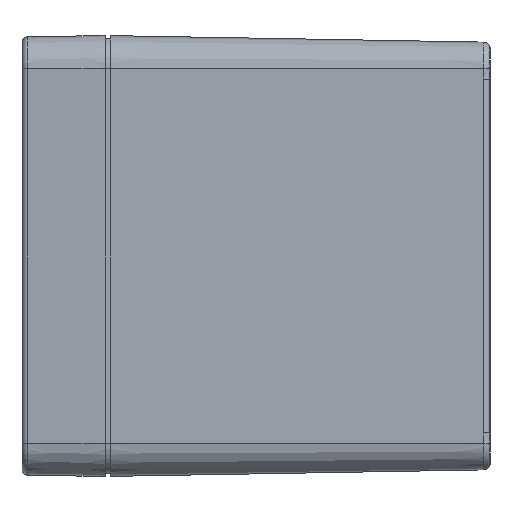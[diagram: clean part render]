
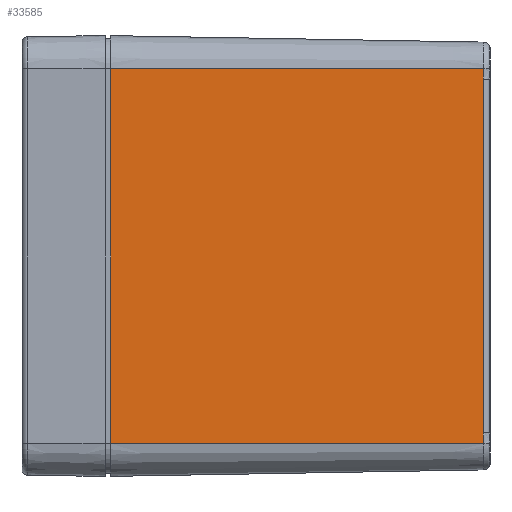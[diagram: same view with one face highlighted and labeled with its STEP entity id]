
A CAD part, left-side view. The second image highlights one B-rep face of the part: STEP entity #33585.
In plain terms, the highlighted planar face has unit normal (-1, -0.018, 0).
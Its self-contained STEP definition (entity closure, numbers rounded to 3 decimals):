
#3644 = ORIENTED_EDGE ( 'NONE', *, *, #25358, .T. ) ;
#3713 = DIRECTION ( 'NONE',  ( 0., 0., 1. ) ) ;
#4967 = CARTESIAN_POINT ( 'NONE',  ( -79.95, 0., 34. ) ) ;
#6379 = EDGE_CURVE ( 'NONE', #26351, #37103, #43136, .T. ) ;
#6888 = CARTESIAN_POINT ( 'NONE',  ( -79.933, -1., 34. ) ) ;
#7764 = AXIS2_PLACEMENT_3D ( 'NONE', #13228, #35449, #17099 ) ;
#9040 = VERTEX_POINT ( 'NONE', #21166 ) ;
#9193 = EDGE_CURVE ( 'NONE', #37103, #30146, #36875, .T. ) ;
#9538 = DIRECTION ( 'NONE',  ( -0.017, 1., 0. ) ) ;
#9598 = ORIENTED_EDGE ( 'NONE', *, *, #40598, .F. ) ;
#11423 = CARTESIAN_POINT ( 'NONE',  ( -79.95, 0., -34. ) ) ;
#11967 = EDGE_CURVE ( 'NONE', #30146, #9040, #42222, .T. ) ;
#12005 = ORIENTED_EDGE ( 'NONE', *, *, #6379, .T. ) ;
#12043 = CARTESIAN_POINT ( 'NONE',  ( -78.753, -68.572, -32.414 ) ) ;
#13228 = CARTESIAN_POINT ( 'NONE',  ( -79.95, 0., 34. ) ) ;
#13625 = DIRECTION ( 'NONE',  ( 0., 0., -1. ) ) ;
#14587 = DIRECTION ( 'NONE',  ( -0.017, 1., 0. ) ) ;
#14672 = VECTOR ( 'NONE', #14587, 1000. ) ;
#15685 = CARTESIAN_POINT ( 'NONE',  ( -78.752, -68.653, -33.364 ) ) ;
#16006 = CARTESIAN_POINT ( 'NONE',  ( -78.753, -68.6, 32.73 ) ) ;
#16709 = CARTESIAN_POINT ( 'NONE',  ( -78.751, -68.676, 33.682 ) ) ;
#16852 = FACE_OUTER_BOUND ( 'NONE', #29394, .T. ) ;
#16872 = EDGE_CURVE ( 'NONE', #26532, #36215, #32488, .T. ) ;
#17099 = DIRECTION ( 'NONE',  ( 0.017, -1., 0. ) ) ;
#19452 = CARTESIAN_POINT ( 'NONE',  ( -79.933, -1., -34. ) ) ;
#19549 = CARTESIAN_POINT ( 'NONE',  ( -78.753, -68.572, -32.095 ) ) ;
#19638 = CARTESIAN_POINT ( 'NONE',  ( -78.753, -68.572, 32.095 ) ) ;
#19796 = CARTESIAN_POINT ( 'NONE',  ( -78.753, -68.572, 32.095 ) ) ;
#21166 = CARTESIAN_POINT ( 'NONE',  ( -78.751, -68.676, 34. ) ) ;
#24300 = LINE ( 'NONE', #4967, #25383 ) ;
#25271 = CARTESIAN_POINT ( 'NONE',  ( -78.753, -68.572, 34. ) ) ;
#25358 = EDGE_CURVE ( 'NONE', #9040, #26532, #24300, .T. ) ;
#25383 = VECTOR ( 'NONE', #9538, 1000. ) ;
#25700 = ORIENTED_EDGE ( 'NONE', *, *, #9193, .T. ) ;
#26351 = VERTEX_POINT ( 'NONE', #42000 ) ;
#26532 = VERTEX_POINT ( 'NONE', #6888 ) ;
#27138 = CARTESIAN_POINT ( 'NONE',  ( -78.752, -68.653, 33.364 ) ) ;
#27376 = CARTESIAN_POINT ( 'NONE',  ( -78.753, -68.572, 32.414 ) ) ;
#27895 = VECTOR ( 'NONE', #13625, 1000. ) ;
#29394 = EDGE_LOOP ( 'NONE', ( #3644, #34707, #9598, #12005, #25700, #41205 ) ) ;
#30146 = VERTEX_POINT ( 'NONE', #19796 ) ;
#30431 = CARTESIAN_POINT ( 'NONE',  ( -78.753, -68.6, -32.73 ) ) ;
#32488 = LINE ( 'NONE', #47232, #27895 ) ;
#33585 = ADVANCED_FACE ( 'NONE', ( #16852 ), #46339, .T. ) ;
#34036 = CARTESIAN_POINT ( 'NONE',  ( -78.751, -68.676, -33.682 ) ) ;
#34707 = ORIENTED_EDGE ( 'NONE', *, *, #16872, .T. ) ;
#35449 = DIRECTION ( 'NONE',  ( -1., -0.017, 0. ) ) ;
#36215 = VERTEX_POINT ( 'NONE', #19452 ) ;
#36875 = LINE ( 'NONE', #25271, #44850 ) ;
#37103 = VERTEX_POINT ( 'NONE', #44138 ) ;
#40598 = EDGE_CURVE ( 'NONE', #26351, #36215, #47695, .T. ) ;
#41205 = ORIENTED_EDGE ( 'NONE', *, *, #11967, .T. ) ;
#42000 = CARTESIAN_POINT ( 'NONE',  ( -78.751, -68.676, -34. ) ) ;
#42222 = B_SPLINE_CURVE_WITH_KNOTS ( 'NONE', 3,
 ( #19638, #27376, #16006, #27138, #16709, #45737 ),
 .UNSPECIFIED., .F., .F.,
 ( 4, 2, 4 ),
 ( 0., 0.001, 0.002 ),
 .UNSPECIFIED. ) ;
#43136 = B_SPLINE_CURVE_WITH_KNOTS ( 'NONE', 3,
 ( #45166, #34036, #15685, #30431, #12043, #19549 ),
 .UNSPECIFIED., .F., .F.,
 ( 4, 2, 4 ),
 ( 0., 0.001, 0.002 ),
 .UNSPECIFIED. ) ;
#44138 = CARTESIAN_POINT ( 'NONE',  ( -78.753, -68.572, -32.095 ) ) ;
#44850 = VECTOR ( 'NONE', #3713, 1000. ) ;
#45166 = CARTESIAN_POINT ( 'NONE',  ( -78.751, -68.676, -34. ) ) ;
#45737 = CARTESIAN_POINT ( 'NONE',  ( -78.751, -68.676, 34. ) ) ;
#46339 = PLANE ( 'NONE',  #7764 ) ;
#47232 = CARTESIAN_POINT ( 'NONE',  ( -79.933, -1., 34. ) ) ;
#47695 = LINE ( 'NONE', #11423, #14672 ) ;
